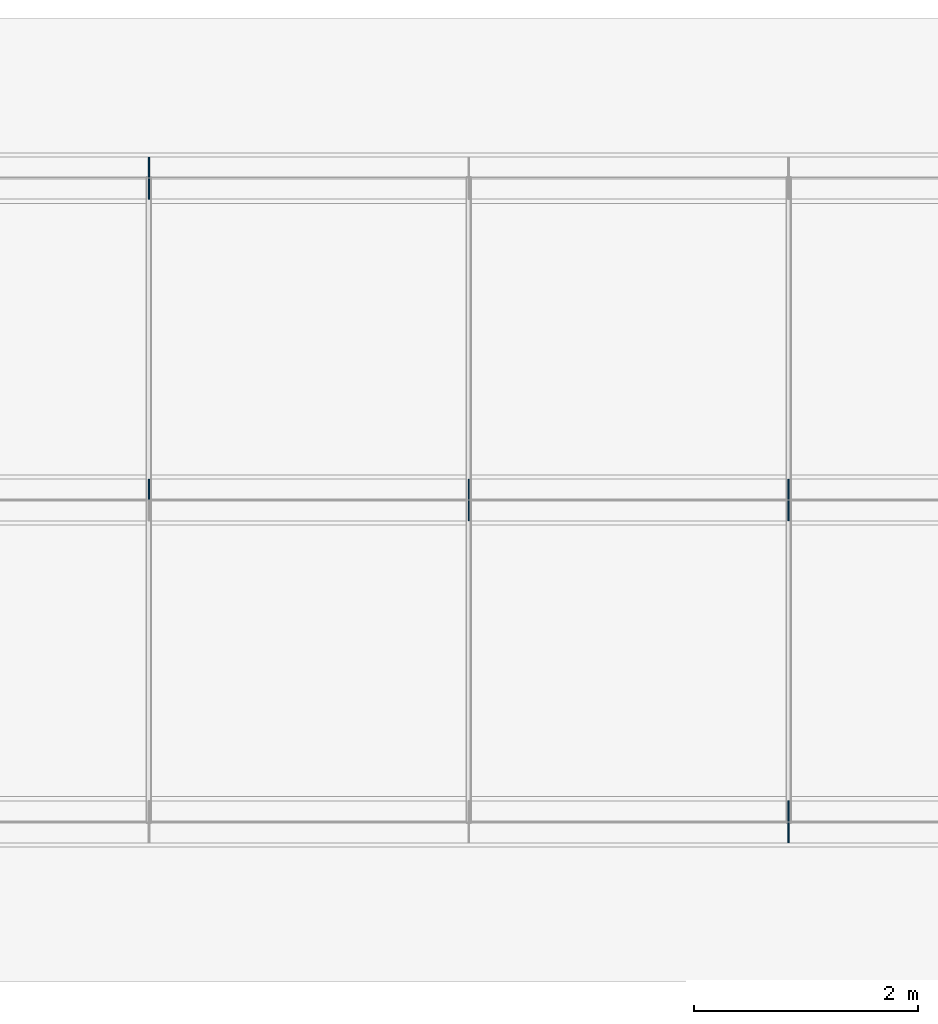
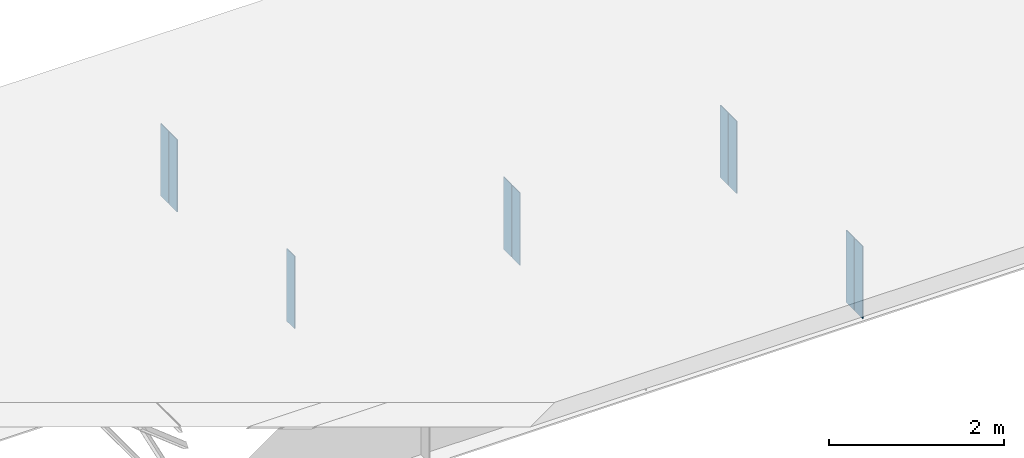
# One storey, part 6 of 8: 9 plates.
"""IFC4 building model written with IfcOpenShell, lengths in metres."""

from ifc_helpers import new_model, si_unit, frame, origin, origin_with_axes, origin_2d_with_axis, place, context, subcontext, project, spatial, rectangle, extrude, element, save


model = new_model("IFC4")

# Units and contexts
model_context = context("Model", 3, precision=1e-05, world=origin())
body_context = subcontext(model_context, "Body", "Model", "MODEL_VIEW")
ifc_project = project(units=[si_unit("LENGTHUNIT", "METRE"), si_unit("AREAUNIT", "SQUARE_METRE"), si_unit("VOLUMEUNIT", "CUBIC_METRE"), si_unit("PLANEANGLEUNIT", "RADIAN")], contexts=[model_context])

# Site, building, storey
site_placement = place(None, origin_with_axes())
site = spatial("IfcSite", under=ifc_project, at=site_placement, Name="Default Site")
building_placement = place(site_placement, origin_with_axes())
building = spatial("IfcBuilding", under=site, at=building_placement, Name="Bridge Structure")
storey_placement = place(building_placement, origin_with_axes())
storey = spatial("IfcBuildingStorey", under=building, at=storey_placement, Name="Superstructure")

# Plates
for number, where, z_axis, x_axis, name in (
    (1, (14.285, -2.77825, -0.505), (0.0, 0.0, 1.0), (1.0, 0.0, 0.0), "Intermediate Stiffener 1"),
    (2, (14.285, -2.97175, -0.505), (0.0, 0.0, 1.0), (1.0, 0.0, 0.0), "Intermediate Stiffener 1"),
    (3, (8.571, 0.09675, -0.505), (0.0, 0.0, 1.0), (1.0, 0.0, 0.0), "Intermediate Stiffener 2"),
    (4, (11.428, 0.09675, -0.505), (0.0, 0.0, 1.0), (1.0, 0.0, 0.0), "Intermediate Stiffener 2"),
    (5, (11.428, -0.09675, -0.505), (0.0, 0.0, 1.0), (1.0, 0.0, 0.0), "Intermediate Stiffener 2"),
    (6, (14.285, 0.09675, -0.505), (0.0, 0.0, 1.0), (1.0, 0.0, 0.0), "Intermediate Stiffener 2"),
    (7, (14.285, -0.09675, -0.505), (0.0, 0.0, 1.0), (1.0, 0.0, 0.0), "Intermediate Stiffener 2"),
    (8, (8.571, 2.97175, -0.505), (0.0, 0.0, 1.0), (1.0, 0.0, 0.0), "Intermediate Stiffener 3"),
    (9, (8.571, 2.77825, -0.505), (0.0, 0.0, 1.0), (1.0, 0.0, 0.0), "Intermediate Stiffener 3"),
):
    element("IfcPlate", number, at=place(storey_placement, frame(where, z_axis=z_axis, x_axis=x_axis)), inside=storey, Name=name, context=body_context, shape_type="SweptSolid", body=[
        extrude(rectangle(XDim=0.012, YDim=0.1815, at=origin_2d_with_axis()), origin_with_axes(), (0.0, 0.0, 1.0), 1.01),
    ])

save(model, "model.ifc")
